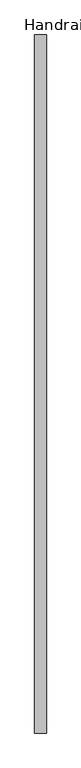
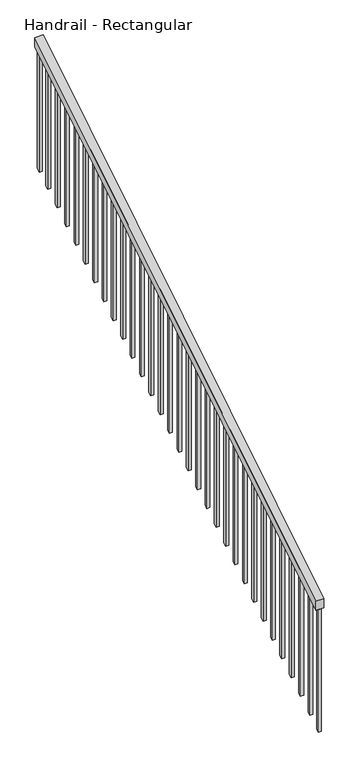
"""IFC4 building model written with IfcOpenShell, lengths in millimetres: railing geometry, Handrail - Rectangular."""

from ifc_helpers import new_model, si_unit, frame, origin, place, context, project, spatial, polyline, outline, extrude, source, transform, mapped, element, save


def handrail_rectangular_fb51a2ad(model_context):
    return source(origin(), model_context, "Body", "SweptSolid", [
        extrude(outline(polyline([(26551.8305304, 3597.8618877), (26551.8305304, 3657.6), (29599.8305304, 5543.55), (29599.8305304, 5483.8118877), (26551.8305304, 3597.8618877)])), frame((-8219.6924856, 0.0, 0.0), z_axis=(1.0, 0.0, 0.0), x_axis=(0.0, 1.0, 0.0)), (0.0, 0.0, 1.0), 50.8),
        extrude(outline(polyline([(29507.7555304, 5426.8404815), (29507.7555304, 4614.0393145), (29488.7055304, 4602.252127), (29488.7055304, 5415.053294), (29507.7555304, 5426.8404815)])), frame((-8203.8174856, 0.0, 0.0), z_axis=(1.0, 0.0, 0.0), x_axis=(0.0, 1.0, 0.0)), (0.0, 0.0, 1.0), 19.05),
        extrude(outline(polyline([(29406.1555304, 5363.9754815), (29406.1555304, 4551.1743145), (29387.1055304, 4539.387127), (29387.1055304, 5352.188294), (29406.1555304, 5363.9754815)])), frame((-8203.8174856, 0.0, 0.0), z_axis=(1.0, 0.0, 0.0), x_axis=(0.0, 1.0, 0.0)), (0.0, 0.0, 1.0), 19.05),
        extrude(outline(polyline([(29304.5555304, 5301.1104815), (29304.5555304, 4488.3093145), (29285.5055304, 4476.522127), (29285.5055304, 5289.323294), (29304.5555304, 5301.1104815)])), frame((-8203.8174856, 0.0, 0.0), z_axis=(1.0, 0.0, 0.0), x_axis=(0.0, 1.0, 0.0)), (0.0, 0.0, 1.0), 19.05),
        extrude(outline(polyline([(29202.9555304, 5238.2454815), (29202.9555304, 4425.4443145), (29183.9055304, 4413.657127), (29183.9055304, 5226.458294), (29202.9555304, 5238.2454815)])), frame((-8203.8174856, 0.0, 0.0), z_axis=(1.0, 0.0, 0.0), x_axis=(0.0, 1.0, 0.0)), (0.0, 0.0, 1.0), 19.05),
        extrude(outline(polyline([(29101.3555304, 5175.3804815), (29101.3555304, 4362.5793145), (29082.3055304, 4350.792127), (29082.3055304, 5163.593294), (29101.3555304, 5175.3804815)])), frame((-8203.8174856, 0.0, 0.0), z_axis=(1.0, 0.0, 0.0), x_axis=(0.0, 1.0, 0.0)), (0.0, 0.0, 1.0), 19.05),
        extrude(outline(polyline([(28999.7555304, 5112.5154815), (28999.7555304, 4299.7143145), (28980.7055304, 4287.927127), (28980.7055304, 5100.728294), (28999.7555304, 5112.5154815)])), frame((-8203.8174856, 0.0, 0.0), z_axis=(1.0, 0.0, 0.0), x_axis=(0.0, 1.0, 0.0)), (0.0, 0.0, 1.0), 19.05),
        extrude(outline(polyline([(28898.1555304, 5049.6504815), (28898.1555304, 4236.8493145), (28879.1055304, 4225.062127), (28879.1055304, 5037.863294), (28898.1555304, 5049.6504815)])), frame((-8203.8174856, 0.0, 0.0), z_axis=(1.0, 0.0, 0.0), x_axis=(0.0, 1.0, 0.0)), (0.0, 0.0, 1.0), 19.05),
        extrude(outline(polyline([(28796.5555304, 4986.7854815), (28796.5555304, 4173.9843145), (28777.5055304, 4162.197127), (28777.5055304, 4974.998294), (28796.5555304, 4986.7854815)])), frame((-8203.8174856, 0.0, 0.0), z_axis=(1.0, 0.0, 0.0), x_axis=(0.0, 1.0, 0.0)), (0.0, 0.0, 1.0), 19.05),
        extrude(outline(polyline([(28694.9555304, 4923.9204815), (28694.9555304, 4111.1193145), (28675.9055304, 4099.332127), (28675.9055304, 4912.133294), (28694.9555304, 4923.9204815)])), frame((-8203.8174856, 0.0, 0.0), z_axis=(1.0, 0.0, 0.0), x_axis=(0.0, 1.0, 0.0)), (0.0, 0.0, 1.0), 19.05),
        extrude(outline(polyline([(28593.3555304, 4861.0554815), (28593.3555304, 4048.2543145), (28574.3055304, 4036.467127), (28574.3055304, 4849.268294), (28593.3555304, 4861.0554815)])), frame((-8203.8174856, 0.0, 0.0), z_axis=(1.0, 0.0, 0.0), x_axis=(0.0, 1.0, 0.0)), (0.0, 0.0, 1.0), 19.05),
        extrude(outline(polyline([(28491.7555304, 4798.1904815), (28491.7555304, 3985.3893145), (28472.7055304, 3973.602127), (28472.7055304, 4786.403294), (28491.7555304, 4798.1904815)])), frame((-8203.8174856, 0.0, 0.0), z_axis=(1.0, 0.0, 0.0), x_axis=(0.0, 1.0, 0.0)), (0.0, 0.0, 1.0), 19.05),
        extrude(outline(polyline([(28390.1555304, 4735.3254815), (28390.1555304, 3922.5243145), (28371.1055304, 3910.737127), (28371.1055304, 4723.538294), (28390.1555304, 4735.3254815)])), frame((-8203.8174856, 0.0, 0.0), z_axis=(1.0, 0.0, 0.0), x_axis=(0.0, 1.0, 0.0)), (0.0, 0.0, 1.0), 19.05),
        extrude(outline(polyline([(28288.5555304, 4672.4604815), (28288.5555304, 3859.6593145), (28269.5055304, 3847.872127), (28269.5055304, 4660.673294), (28288.5555304, 4672.4604815)])), frame((-8203.8174856, 0.0, 0.0), z_axis=(1.0, 0.0, 0.0), x_axis=(0.0, 1.0, 0.0)), (0.0, 0.0, 1.0), 19.05),
        extrude(outline(polyline([(28186.9555304, 4609.5954815), (28186.9555304, 3796.7943145), (28167.9055304, 3785.007127), (28167.9055304, 4597.808294), (28186.9555304, 4609.5954815)])), frame((-8203.8174856, 0.0, 0.0), z_axis=(1.0, 0.0, 0.0), x_axis=(0.0, 1.0, 0.0)), (0.0, 0.0, 1.0), 19.05),
        extrude(outline(polyline([(28085.3555304, 4546.7304815), (28085.3555304, 3733.9293145), (28066.3055304, 3722.142127), (28066.3055304, 4534.943294), (28085.3555304, 4546.7304815)])), frame((-8203.8174856, 0.0, 0.0), z_axis=(1.0, 0.0, 0.0), x_axis=(0.0, 1.0, 0.0)), (0.0, 0.0, 1.0), 19.05),
        extrude(outline(polyline([(27983.7555304, 4483.8654815), (27983.7555304, 3671.0643145), (27964.7055304, 3659.277127), (27964.7055304, 4472.078294), (27983.7555304, 4483.8654815)])), frame((-8203.8174856, 0.0, 0.0), z_axis=(1.0, 0.0, 0.0), x_axis=(0.0, 1.0, 0.0)), (0.0, 0.0, 1.0), 19.05),
        extrude(outline(polyline([(27882.1555304, 4421.0004815), (27882.1555304, 3608.1993145), (27863.1055304, 3596.412127), (27863.1055304, 4409.213294), (27882.1555304, 4421.0004815)])), frame((-8203.8174856, 0.0, 0.0), z_axis=(1.0, 0.0, 0.0), x_axis=(0.0, 1.0, 0.0)), (0.0, 0.0, 1.0), 19.05),
        extrude(outline(polyline([(27780.5555304, 4358.1354815), (27780.5555304, 3545.3343145), (27761.5055304, 3533.547127), (27761.5055304, 4346.348294), (27780.5555304, 4358.1354815)])), frame((-8203.8174856, 0.0, 0.0), z_axis=(1.0, 0.0, 0.0), x_axis=(0.0, 1.0, 0.0)), (0.0, 0.0, 1.0), 19.05),
        extrude(outline(polyline([(27678.9555304, 4295.2704815), (27678.9555304, 3482.4693145), (27659.9055304, 3470.682127), (27659.9055304, 4283.483294), (27678.9555304, 4295.2704815)])), frame((-8203.8174856, 0.0, 0.0), z_axis=(1.0, 0.0, 0.0), x_axis=(0.0, 1.0, 0.0)), (0.0, 0.0, 1.0), 19.05),
        extrude(outline(polyline([(27577.3555304, 4232.4054815), (27577.3555304, 3419.6043145), (27558.3055304, 3407.817127), (27558.3055304, 4220.618294), (27577.3555304, 4232.4054815)])), frame((-8203.8174856, 0.0, 0.0), z_axis=(1.0, 0.0, 0.0), x_axis=(0.0, 1.0, 0.0)), (0.0, 0.0, 1.0), 19.05),
        extrude(outline(polyline([(27475.7555304, 4169.5404815), (27475.7555304, 3356.7393145), (27456.7055304, 3344.952127), (27456.7055304, 4157.753294), (27475.7555304, 4169.5404815)])), frame((-8203.8174856, 0.0, 0.0), z_axis=(1.0, 0.0, 0.0), x_axis=(0.0, 1.0, 0.0)), (0.0, 0.0, 1.0), 19.05),
        extrude(outline(polyline([(27374.1555304, 4106.6754815), (27374.1555304, 3293.8743145), (27355.1055304, 3282.087127), (27355.1055304, 4094.888294), (27374.1555304, 4106.6754815)])), frame((-8203.8174856, 0.0, 0.0), z_axis=(1.0, 0.0, 0.0), x_axis=(0.0, 1.0, 0.0)), (0.0, 0.0, 1.0), 19.05),
        extrude(outline(polyline([(27272.5555304, 4043.8104815), (27272.5555304, 3231.0093145), (27253.5055304, 3219.222127), (27253.5055304, 4032.023294), (27272.5555304, 4043.8104815)])), frame((-8203.8174856, 0.0, 0.0), z_axis=(1.0, 0.0, 0.0), x_axis=(0.0, 1.0, 0.0)), (0.0, 0.0, 1.0), 19.05),
        extrude(outline(polyline([(27170.9555304, 3980.9454815), (27170.9555304, 3168.1443145), (27151.9055304, 3156.357127), (27151.9055304, 3969.158294), (27170.9555304, 3980.9454815)])), frame((-8203.8174856, 0.0, 0.0), z_axis=(1.0, 0.0, 0.0), x_axis=(0.0, 1.0, 0.0)), (0.0, 0.0, 1.0), 19.05),
        extrude(outline(polyline([(27069.3555304, 3918.0804815), (27069.3555304, 3105.2793145), (27050.3055304, 3093.492127), (27050.3055304, 3906.293294), (27069.3555304, 3918.0804815)])), frame((-8203.8174856, 0.0, 0.0), z_axis=(1.0, 0.0, 0.0), x_axis=(0.0, 1.0, 0.0)), (0.0, 0.0, 1.0), 19.05),
        extrude(outline(polyline([(26967.7555304, 3855.2154815), (26967.7555304, 3042.4143145), (26948.7055304, 3030.627127), (26948.7055304, 3843.428294), (26967.7555304, 3855.2154815)])), frame((-8203.8174856, 0.0, 0.0), z_axis=(1.0, 0.0, 0.0), x_axis=(0.0, 1.0, 0.0)), (0.0, 0.0, 1.0), 19.05),
        extrude(outline(polyline([(26866.1555304, 3792.3504815), (26866.1555304, 2979.5493145), (26847.1055304, 2967.762127), (26847.1055304, 3780.563294), (26866.1555304, 3792.3504815)])), frame((-8203.8174856, 0.0, 0.0), z_axis=(1.0, 0.0, 0.0), x_axis=(0.0, 1.0, 0.0)), (0.0, 0.0, 1.0), 19.05),
        extrude(outline(polyline([(26764.5555304, 3729.4854815), (26764.5555304, 2916.6843145), (26745.5055304, 2904.897127), (26745.5055304, 3717.698294), (26764.5555304, 3729.4854815)])), frame((-8203.8174856, 0.0, 0.0), z_axis=(1.0, 0.0, 0.0), x_axis=(0.0, 1.0, 0.0)), (0.0, 0.0, 1.0), 19.05),
        extrude(outline(polyline([(26662.9555304, 3666.6204815), (26662.9555304, 2853.8193145), (26643.9055304, 2842.032127), (26643.9055304, 3654.833294), (26662.9555304, 3666.6204815)])), frame((-8203.8174856, 0.0, 0.0), z_axis=(1.0, 0.0, 0.0), x_axis=(0.0, 1.0, 0.0)), (0.0, 0.0, 1.0), 19.05),
        extrude(outline(polyline([(29599.8305304, 5483.8118877), (29599.8305304, 4671.0107207), (29580.7805304, 4659.2235332), (29580.7805304, 5472.0247002), (29599.8305304, 5483.8118877)])), frame((-8203.8174856, 0.0, 0.0), z_axis=(1.0, 0.0, 0.0), x_axis=(0.0, 1.0, 0.0)), (0.0, 0.0, 1.0), 19.05),
        extrude(outline(polyline([(26570.8805304, 3609.6490752), (26570.8805304, 2796.8479082), (26551.8305304, 2785.0607207), (26551.8305304, 3597.8618877), (26570.8805304, 3609.6490752)])), frame((-8203.8174856, 0.0, 0.0), z_axis=(1.0, 0.0, 0.0), x_axis=(0.0, 1.0, 0.0)), (0.0, 0.0, 1.0), 19.05),
    ])


if __name__ == "__main__":
    model = new_model("IFC4")
    model_context = context("Model", 3, world=origin())
    ifc_project = project(units=[si_unit("LENGTHUNIT", "METRE", prefix="MILLI")], contexts=[model_context])
    site = spatial("IfcSite", under=ifc_project)
    building = spatial("IfcBuilding", under=site)
    placement = place(None, origin())
    handrail_rectangular_shape = handrail_rectangular_fb51a2ad(model_context)
    element("IfcRailing", 1, ObjectType="Handrail - Rectangular", at=placement, inside=building, context=model_context, shape_type="MappedRepresentation", body=[
        mapped(handrail_rectangular_shape, transform((0.0, 0.0, 0.0), x_axis=(1.0, 0.0, 0.0), y_axis=(0.0, 1.0, 0.0), z_axis=(0.0, 0.0, 1.0))),
    ])
    save(model, "model.ifc")
